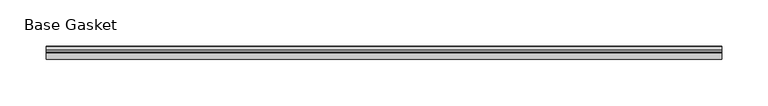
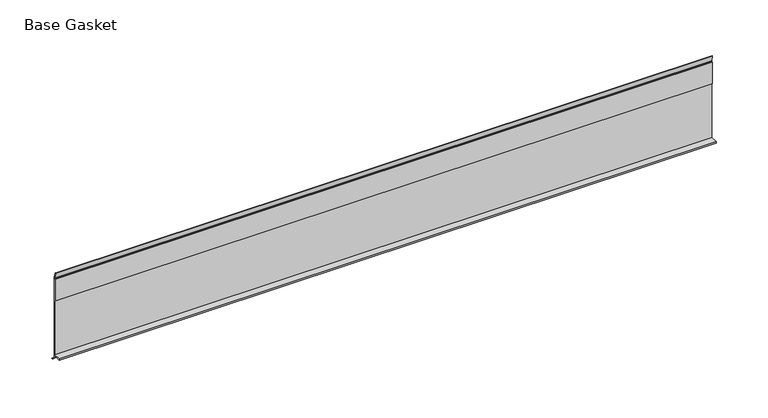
"""IFC4 building model written with IfcOpenShell, lengths in millimetres: furniture geometry, Gasket-Teknion-FHGB-AI_Healthcare-R2021 : Base Gasket."""

from ifc_helpers import new_model, si_unit, frame, origin, place, context, project, spatial, polyline, outline, extrude, source, transform, mapped, element, save


def base_gasket_b09a8aa5(model_context):
    return source(origin(), model_context, "Body", "SweptSolid", [
        extrude(outline(polyline([(3.7283812, 98.4568417), (3.7283812, 4.3498477), (7.4222115, 0.6560174), (7.8482342, 0.0), (6.8281054, 0.3520979), (2.2043812, 4.3498477), (2.1334222, 6.3818476), (-6.2405171, 6.3818476), (-6.2405171, 7.9398773), (2.2043812, 7.9398773), (2.2043812, 71.4693447), (1.4106313, 71.4693447), (1.4106313, 96.8693477), (2.2043812, 96.8693477), (2.2043812, 98.4568417), (0.6755308, 104.4162708), (0.6755308, 105.2002997), (1.1891543, 104.587663), (3.7283812, 98.4568417)])), frame((-1527.8982117, 0.0, 0.0), z_axis=(1.0, 0.0, 0.0), x_axis=(0.0, 1.0, 0.0)), (0.0, 0.0, 1.0), 730.25),
    ])


if __name__ == "__main__":
    model = new_model("IFC4")
    model_context = context("Model", 3, world=origin())
    ifc_project = project(units=[si_unit("LENGTHUNIT", "METRE", prefix="MILLI")], contexts=[model_context])
    site = spatial("IfcSite", under=ifc_project)
    building = spatial("IfcBuilding", under=site)
    placement = place(None, origin())
    base_gasket_shape = base_gasket_b09a8aa5(model_context)
    element("IfcFurniture", 1, ObjectType="Gasket-Teknion-FHGB-AI_Healthcare-R2021 : Base Gasket", at=placement, inside=building, context=model_context, shape_type="MappedRepresentation", body=[
        mapped(base_gasket_shape, transform((0.0, 0.0, 0.0), x_axis=(1.0, 0.0, 0.0), y_axis=(0.0, 1.0, 0.0), z_axis=(0.0, 0.0, 1.0))),
    ])
    save(model, "model.ifc")
